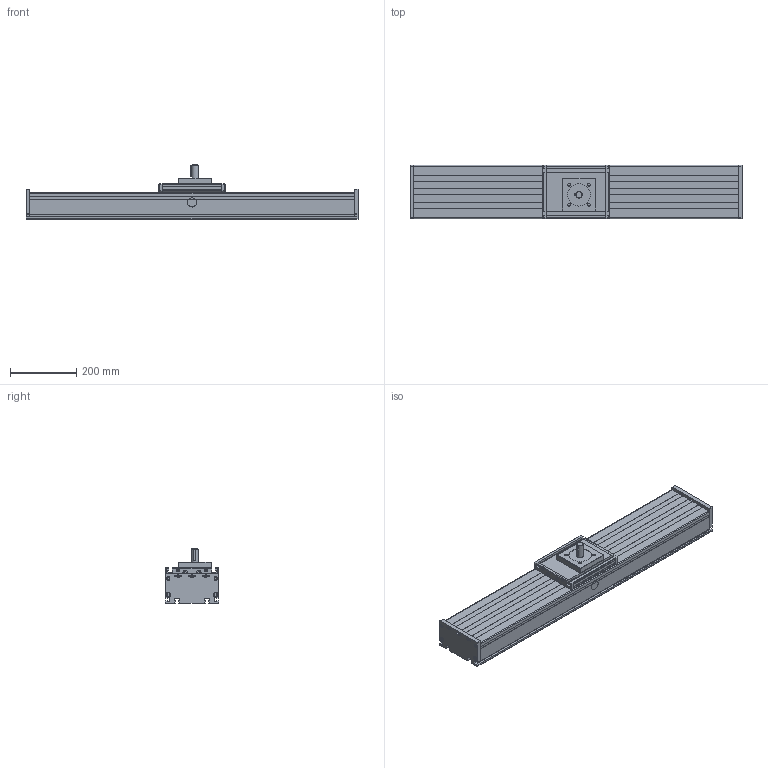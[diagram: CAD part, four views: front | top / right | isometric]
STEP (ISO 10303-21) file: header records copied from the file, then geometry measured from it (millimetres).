
FILE_DESCRIPTION (( 'STEP AP214' ), '1' );
FILE_NAME ('DLZA-160.STEP', '2016-01-08T10:35:39', ( 'admin' ), ( '' ), 'SwSTEP 2.0', 'SolidWorks 2015', '' );
FILE_SCHEMA (( 'AUTOMOTIVE_DESIGN' ));
Length unit declared in the file: millimetre
Products named in the file (5): Kopie von Bahr-DLZA-DLZA-160  1  0 0 1  0 0 1  1240_DLZA 160 Drive Block^DLZA160 F0 S0 A1; Kopie von Bahr-DLZA-DLZA-160  1  0 0 1  0 0 1  1240_DLZA 160 Carriage^DLZA160 F0 S0 A1; Kopie von Bahr-DLZA-DLZA-160  1  0 0 1  0 0 1  1240_DLZA Extrusion 160^DLZA160 F0 S0 A1; Kopie von Bahr-DLZA-DLZA-160  1  0 0 1  0 0 1  1240_DLZA End Block 160^DLZA160 F0 S0 A1; DLZA-160
Assembly tree (5 placements, depth 2):
  DLZA-160
    Kopie von Bahr-DLZA-DLZA-160  1  0 0 1  0 0 1  1240_DLZA End Block 160^DLZA160 F0 S0 A1  x2
    Kopie von Bahr-DLZA-DLZA-160  1  0 0 1  0 0 1  1240_DLZA Extrusion 160^DLZA160 F0 S0 A1
    Kopie von Bahr-DLZA-DLZA-160  1  0 0 1  0 0 1  1240_DLZA 160 Carriage^DLZA160 F0 S0 A1
    Kopie von Bahr-DLZA-DLZA-160  1  0 0 1  0 0 1  1240_DLZA 160 Drive Block^DLZA160 F0 S0 A1
Bounding box: 1000 x 160.2 x 163.5 mm (x, y, z)
Volume: 12999270.5 mm3; surface area: 870243.8 mm2
Topology: 9 solids, 9 shells, 586 faces, 1547 edges, 1005 vertices
Faces by surface type: plane 395, cylinder 177, sphere 12, cone 2
Entity records: 15115 total; most frequent: CARTESIAN_POINT 2638, ORIENTED_EDGE 2464, DIRECTION 2441, EDGE_CURVE 1232, LINE 957, VECTOR 957, VERTEX_POINT 803, AXIS2_PLACEMENT_3D 742
